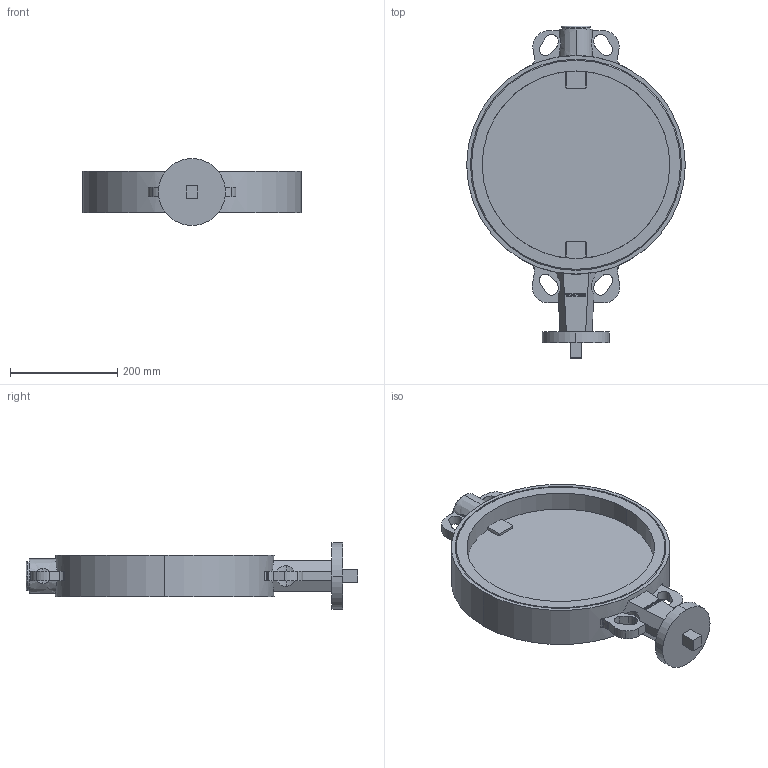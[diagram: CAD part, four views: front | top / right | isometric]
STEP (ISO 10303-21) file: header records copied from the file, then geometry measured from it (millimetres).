
FILE_DESCRIPTION((''),'2;1');
FILE_NAME('KL000020.dwg.stp','2006-10-04T11:30:36',(''),(''),'Mechanical Desktop 2006','Mechanical Desktop 2006',', , ');
FILE_SCHEMA(('AUTOMOTIVE_DESIGN { 1 2 10303 214 0 1 1 1 }'));
Length unit declared in the file: millimetre
Products named in the file (1): Product
Bounding box: 408 x 619.5 x 125 mm (x, y, z)
Volume: 4186169 mm3; surface area: 743011.1 mm2
Topology: 20 solids, 20 shells, 538 faces, 1483 edges, 989 vertices
Faces by surface type: cylinder 227, plane 210, bspline 91, cone 8, torus 2
Entity records: 18524 total; most frequent: CARTESIAN_POINT 4542, ORIENTED_EDGE 2966, DIRECTION 2940, EDGE_CURVE 1483, AXIS2_PLACEMENT_3D 1053, VERTEX_POINT 989, VECTOR 834, LINE 834
